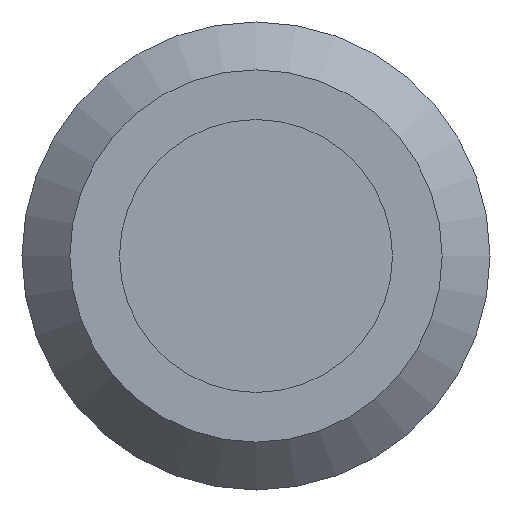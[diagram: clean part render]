
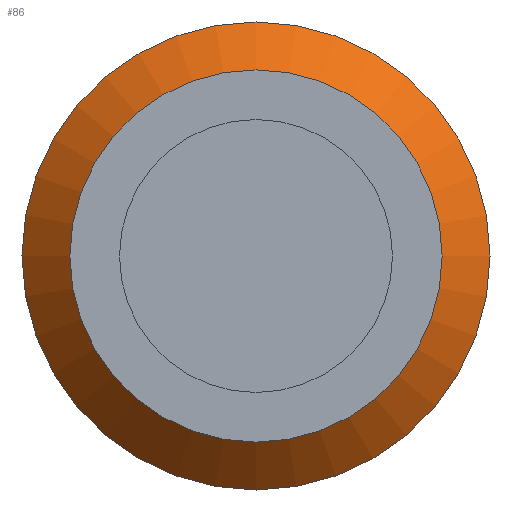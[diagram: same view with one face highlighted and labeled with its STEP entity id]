
A CAD part, front view. The second image highlights one B-rep face of the part: STEP entity #86.
In plain terms, the highlighted conical face has half-angle 45 degrees and reference radius 3 mm.
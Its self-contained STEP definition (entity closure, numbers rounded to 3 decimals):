
#86 = ADVANCED_FACE( '', ( #115, #116 ), #117, .T. );
#115 = FACE_BOUND( '', #149, .T. );
#116 = FACE_OUTER_BOUND( '', #150, .T. );
#117 = CONICAL_SURFACE( '', #151, 3., 0.785 );
#149 = EDGE_LOOP( '', ( #233 ) );
#150 = EDGE_LOOP( '', ( #234 ) );
#151 = AXIS2_PLACEMENT_3D( '', #235, #236, #237 );
#233 = ORIENTED_EDGE( '', *, *, #269, .F. );
#234 = ORIENTED_EDGE( '', *, *, #270, .T. );
#235 = CARTESIAN_POINT( '', ( 0., 1.913, 0. ) );
#236 = DIRECTION( '', ( 0., 1., 0. ) );
#237 = DIRECTION( '', ( 0., 0., 1. ) );
#269 = EDGE_CURVE( '', #308, #308, #309, .T. );
#270 = EDGE_CURVE( '', #310, #310, #311, .T. );
#308 = VERTEX_POINT( '', #368 );
#309 = CIRCLE( '', #369, 2.387 );
#310 = VERTEX_POINT( '', #370 );
#311 = CIRCLE( '', #371, 3. );
#368 = CARTESIAN_POINT( '', ( 0., 1.3, -2.387 ) );
#369 = AXIS2_PLACEMENT_3D( '', #401, #402, #403 );
#370 = CARTESIAN_POINT( '', ( 0., 1.913, -3. ) );
#371 = AXIS2_PLACEMENT_3D( '', #404, #405, #406 );
#401 = CARTESIAN_POINT( '', ( 0., 1.3, 0. ) );
#402 = DIRECTION( '', ( 0., -1., 0. ) );
#403 = DIRECTION( '', ( 0., 0., -1. ) );
#404 = CARTESIAN_POINT( '', ( 0., 1.913, 0. ) );
#405 = DIRECTION( '', ( 0., -1., 0. ) );
#406 = DIRECTION( '', ( 0., 0., -1. ) );
